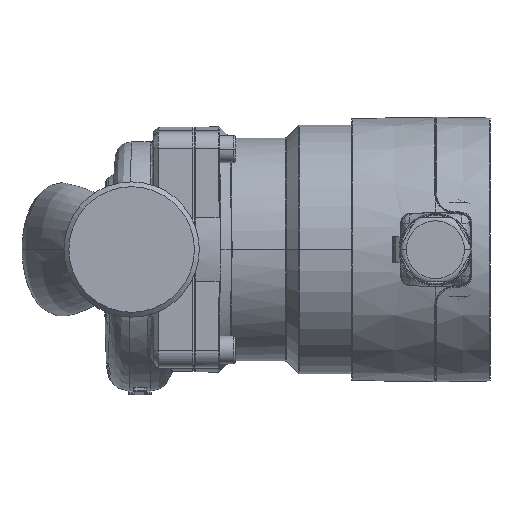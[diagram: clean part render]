
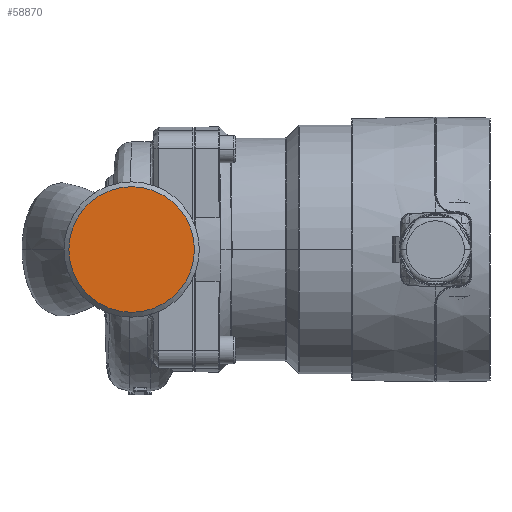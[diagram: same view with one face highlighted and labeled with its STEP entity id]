
A CAD part, front view. The second image highlights one B-rep face of the part: STEP entity #58870.
In plain terms, the highlighted planar face has unit normal (0, -1, 0).
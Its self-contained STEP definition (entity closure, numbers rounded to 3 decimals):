
#55280 = CONICAL_SURFACE('',#55281,20.95,0.785);
#55281 = AXIS2_PLACEMENT_3D('',#55282,#55283,#55284);
#55282 = CARTESIAN_POINT('',(-13.98,-73.5,0.));
#55283 = DIRECTION('',(0.,1.,0.));
#55284 = DIRECTION('',(1.,0.,0.));
#57373 = VERTEX_POINT('',#57374);
#57374 = CARTESIAN_POINT('',(5.47,-75.,0.));
#57397 = EDGE_CURVE('',#57373,#57373,#57398,.T.);
#57398 = SURFACE_CURVE('',#57399,(#57404,#57411),.PCURVE_S1.);
#57399 = CIRCLE('',#57400,19.45);
#57400 = AXIS2_PLACEMENT_3D('',#57401,#57402,#57403);
#57401 = CARTESIAN_POINT('',(-13.98,-75.,0.));
#57402 = DIRECTION('',(0.,-1.,0.));
#57403 = DIRECTION('',(1.,0.,0.));
#57404 = PCURVE('',#55280,#57405);
#57405 = DEFINITIONAL_REPRESENTATION('',(#57406),#57410);
#57406 = LINE('',#57407,#57408);
#57407 = CARTESIAN_POINT('',(-0.,-1.5));
#57408 = VECTOR('',#57409,1.);
#57409 = DIRECTION('',(-1.,-0.));
#57410 = ( GEOMETRIC_REPRESENTATION_CONTEXT(2) 
PARAMETRIC_REPRESENTATION_CONTEXT() REPRESENTATION_CONTEXT('2D SPACE',''
  ) );
#57411 = PCURVE('',#57412,#57417);
#57412 = PLANE('',#57413);
#57413 = AXIS2_PLACEMENT_3D('',#57414,#57415,#57416);
#57414 = CARTESIAN_POINT('',(-13.98,-75.,0.));
#57415 = DIRECTION('',(0.,-1.,0.));
#57416 = DIRECTION('',(0.,0.,1.));
#57417 = DEFINITIONAL_REPRESENTATION('',(#57418),#57422);
#57418 = CIRCLE('',#57419,19.45);
#57419 = AXIS2_PLACEMENT_2D('',#57420,#57421);
#57420 = CARTESIAN_POINT('',(0.,0.));
#57421 = DIRECTION('',(0.,-1.));
#57422 = ( GEOMETRIC_REPRESENTATION_CONTEXT(2) 
PARAMETRIC_REPRESENTATION_CONTEXT() REPRESENTATION_CONTEXT('2D SPACE',''
  ) );
#58870 = ADVANCED_FACE('',(#58871),#57412,.T.);
#58871 = FACE_BOUND('',#58872,.T.);
#58872 = EDGE_LOOP('',(#58873));
#58873 = ORIENTED_EDGE('',*,*,#57397,.T.);
